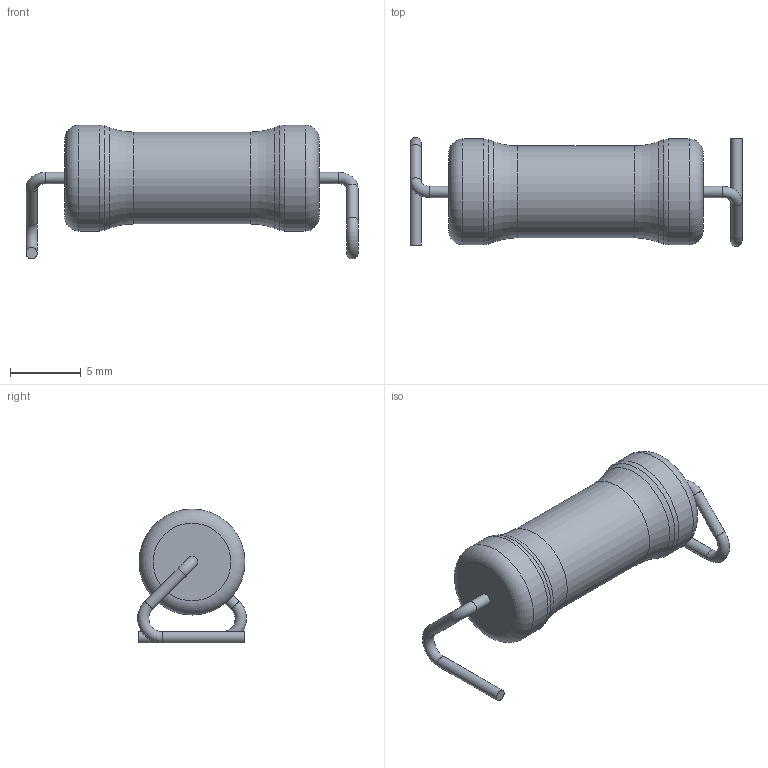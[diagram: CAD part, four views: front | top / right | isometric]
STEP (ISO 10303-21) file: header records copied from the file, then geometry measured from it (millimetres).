
FILE_DESCRIPTION(/* description */ ('AC05AT-WSZ'),/* implementation_level */ '2;1');
FILE_NAME(/* name */ 'P:\Work\User\Special\CAD\Marketing\Widerstände\Widerstand Serien\AC-Serie\gebogene Ausführung\AC03_WSZ6720\AC05\AC05AT-WSZ.stp',/* time_stamp */ '2019-09-02T07:43:11+02:00',/* author */ ('klepschi'),/* organization */ (''),/* preprocessor_version */ 'ST-DEVELOPER v16.5',/* originating_system */ 'Autodesk Inventor 2017',/* authorisation */ '');
FILE_SCHEMA (('AUTOMOTIVE_DESIGN { 1 0 10303 214 3 1 1 }'));
Length unit declared in the file: millimetre
Products named in the file (1): AC05AT-WSZ
Bounding box: 23.5 x 7.69 x 9.48 mm (x, y, z)
Volume: 677.4 mm3; surface area: 536 mm2
Topology: 1 solids, 1 shells, 25 faces, 51 edges, 30 vertices
Faces by surface type: torus 10, cylinder 7, plane 4, bspline 2, cone 2
Full cylindrical faces by diameter (mm): 0.8 x4, 6.5 x1, 7.5 x2
Entity records: 594 total; most frequent: CARTESIAN_POINT 115, DIRECTION 100, ORIENTED_EDGE 56, AXIS2_PLACEMENT_3D 50, EDGE_LOOP 45, EDGE_CURVE 28, CIRCLE 26, FACE_OUTER_BOUND 25
